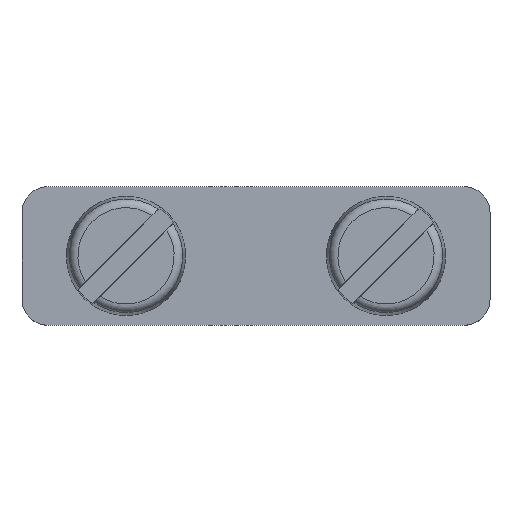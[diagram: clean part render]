
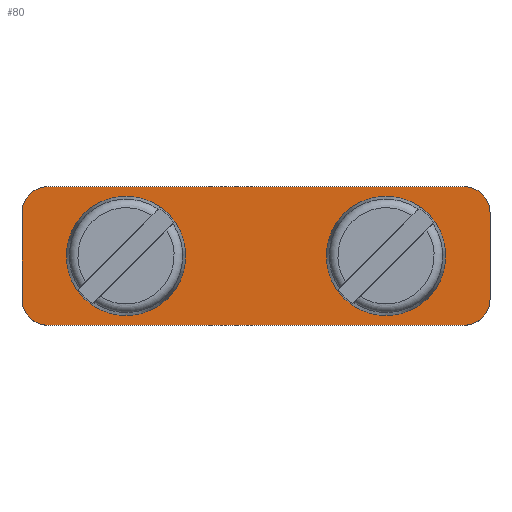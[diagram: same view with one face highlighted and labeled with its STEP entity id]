
A CAD part, top view. The second image highlights one B-rep face of the part: STEP entity #80.
In plain terms, the highlighted planar face has unit normal (0, 0, 1).
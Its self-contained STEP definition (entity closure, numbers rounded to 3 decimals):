
#80=ADVANCED_FACE('',(#458,#460,#462),#464,.F.);
#458=FACE_BOUND('',#459,.T.);
#459=EDGE_LOOP('',(#771,#772,#773,#774,#775,#776,#777,#778));
#460=FACE_BOUND('',#461,.T.);
#461=EDGE_LOOP('',(#779));
#462=FACE_BOUND('',#463,.T.);
#463=EDGE_LOOP('',(#780));
#464=PLANE('',#465);
#465=AXIS2_PLACEMENT_3D('',#466,#467,#468);
#466=CARTESIAN_POINT('',(0.,0.,2.5));
#467=DIRECTION('',(0.,0.,-1.));
#468=DIRECTION('',(1.,0.,0.));
#771=ORIENTED_EDGE('',*,*,#929,.F.);
#772=ORIENTED_EDGE('',*,*,#930,.F.);
#773=ORIENTED_EDGE('',*,*,#931,.F.);
#774=ORIENTED_EDGE('',*,*,#932,.F.);
#775=ORIENTED_EDGE('',*,*,#933,.F.);
#776=ORIENTED_EDGE('',*,*,#934,.F.);
#777=ORIENTED_EDGE('',*,*,#935,.F.);
#778=ORIENTED_EDGE('',*,*,#936,.F.);
#779=ORIENTED_EDGE('',*,*,#937,.F.);
#780=ORIENTED_EDGE('',*,*,#927,.F.);
#927=EDGE_CURVE('',#1009,#1009,#1010,.T.);
#929=EDGE_CURVE('',#1013,#1014,#1015,.T.);
#930=EDGE_CURVE('',#1016,#1013,#1017,.T.);
#931=EDGE_CURVE('',#1018,#1016,#1019,.T.);
#932=EDGE_CURVE('',#1020,#1018,#1021,.T.);
#933=EDGE_CURVE('',#1022,#1020,#1023,.T.);
#934=EDGE_CURVE('',#1024,#1022,#1025,.T.);
#935=EDGE_CURVE('',#1026,#1024,#1027,.T.);
#936=EDGE_CURVE('',#1014,#1026,#1028,.T.);
#937=EDGE_CURVE('',#1029,#1029,#1030,.T.);
#1009=VERTEX_POINT('',#1155);
#1010=CIRCLE('',#1156,3.25);
#1013=VERTEX_POINT('',#1165);
#1014=VERTEX_POINT('',#1166);
#1015=LINE('',#1167,#1168);
#1016=VERTEX_POINT('',#1170);
#1017=CIRCLE('',#1171,1.5);
#1018=VERTEX_POINT('',#1175);
#1019=LINE('',#1176,#1177);
#1020=VERTEX_POINT('',#1179);
#1021=CIRCLE('',#1180,1.5);
#1022=VERTEX_POINT('',#1184);
#1023=LINE('',#1185,#1186);
#1024=VERTEX_POINT('',#1188);
#1025=CIRCLE('',#1189,1.5);
#1026=VERTEX_POINT('',#1193);
#1027=LINE('',#1194,#1195);
#1028=CIRCLE('',#1197,1.5);
#1029=VERTEX_POINT('',#1201);
#1030=CIRCLE('',#1202,3.25);
#1155=CARTESIAN_POINT('',(9.25,-4.,2.5));
#1156=AXIS2_PLACEMENT_3D('',#1157,#1158,#1159);
#1157=CARTESIAN_POINT('',(6.,-4.,2.5));
#1158=DIRECTION('',(0.,0.,1.));
#1159=DIRECTION('',(1.,0.,0.));
#1165=CARTESIAN_POINT('',(1.5,0.,2.5));
#1166=CARTESIAN_POINT('',(25.5,0.,2.5));
#1167=CARTESIAN_POINT('',(1.5,0.,2.5));
#1168=VECTOR('',#1169,1.);
#1169=DIRECTION('',(1.,0.,0.));
#1170=CARTESIAN_POINT('',(0.,-1.5,2.5));
#1171=AXIS2_PLACEMENT_3D('',#1172,#1173,#1174);
#1172=CARTESIAN_POINT('',(1.5,-1.5,2.5));
#1173=DIRECTION('',(0.,0.,-1.));
#1174=DIRECTION('',(-1.,0.,0.));
#1175=CARTESIAN_POINT('',(0.,-6.5,2.5));
#1176=CARTESIAN_POINT('',(0.,-6.5,2.5));
#1177=VECTOR('',#1178,1.);
#1178=DIRECTION('',(0.,1.,0.));
#1179=CARTESIAN_POINT('',(1.5,-8.,2.5));
#1180=AXIS2_PLACEMENT_3D('',#1181,#1182,#1183);
#1181=CARTESIAN_POINT('',(1.5,-6.5,2.5));
#1182=DIRECTION('',(0.,0.,-1.));
#1183=DIRECTION('',(0.,-1.,0.));
#1184=CARTESIAN_POINT('',(25.5,-8.,2.5));
#1185=CARTESIAN_POINT('',(25.5,-8.,2.5));
#1186=VECTOR('',#1187,1.);
#1187=DIRECTION('',(-1.,0.,0.));
#1188=CARTESIAN_POINT('',(27.,-6.5,2.5));
#1189=AXIS2_PLACEMENT_3D('',#1190,#1191,#1192);
#1190=CARTESIAN_POINT('',(25.5,-6.5,2.5));
#1191=DIRECTION('',(0.,0.,-1.));
#1192=DIRECTION('',(1.,0.,0.));
#1193=CARTESIAN_POINT('',(27.,-1.5,2.5));
#1194=CARTESIAN_POINT('',(27.,-1.5,2.5));
#1195=VECTOR('',#1196,1.);
#1196=DIRECTION('',(0.,-1.,0.));
#1197=AXIS2_PLACEMENT_3D('',#1198,#1199,#1200);
#1198=CARTESIAN_POINT('',(25.5,-1.5,2.5));
#1199=DIRECTION('',(0.,0.,-1.));
#1200=DIRECTION('',(0.,1.,0.));
#1201=CARTESIAN_POINT('',(24.25,-4.,2.5));
#1202=AXIS2_PLACEMENT_3D('',#1203,#1204,#1205);
#1203=CARTESIAN_POINT('',(21.,-4.,2.5));
#1204=DIRECTION('',(0.,0.,1.));
#1205=DIRECTION('',(1.,0.,0.));
